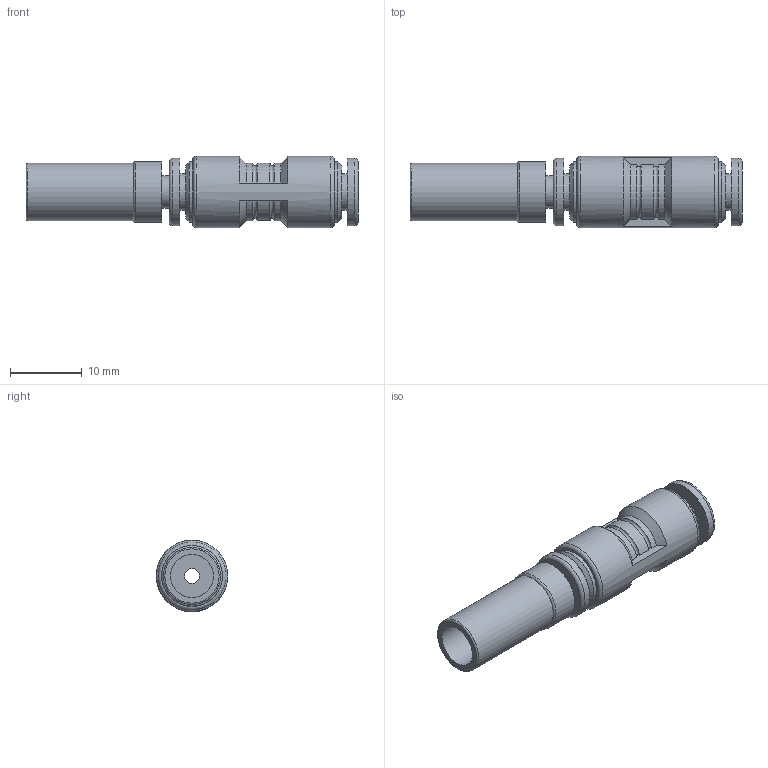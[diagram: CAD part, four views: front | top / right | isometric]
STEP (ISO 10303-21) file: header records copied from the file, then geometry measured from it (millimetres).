
FILE_DESCRIPTION((''),'2;1');
FILE_NAME('E:\2012年度板ﾃﾞｰﾀ\CHIYODA 3D-CAD DATA (Inventor 11)\TOUCH CONNECTOR FIVE (Inventor 11)\[21] REDUCER\[02] FR4-8RC FR4-8RCW.stp','2012-03-21T16:31:29',('kazuhiro.t'),(''),'Autodesk Inventor 11','Autodesk Inventor 11','');
FILE_SCHEMA(('AUTOMOTIVE_DESIGN { 1 0 10303 214 1 1 1 1 }'));
Length unit declared in the file: millimetre
Products named in the file (1): [02] FR4-8RC FR4-8RCW
Bounding box: 46.4 x 10 x 10 mm (x, y, z)
Volume: 2040.8 mm3; surface area: 2291.4 mm2
Topology: 1 solids, 1 shells, 53 faces, 110 edges, 71 vertices
Faces by surface type: bspline 22, cylinder 12, plane 11, torus 5, cone 3
Full cylindrical faces by diameter (mm): 2.1 x1, 4.5 x1, 5.1 x1, 8 x1, 8.4 x1, 8.5 x1, 9.5 x1, 10 x1
Entity records: 1812 total; most frequent: CARTESIAN_POINT 843, DIRECTION 182, ORIENTED_EDGE 166, EDGE_LOOP 90, AXIS2_PLACEMENT_3D 83, EDGE_CURVE 83, VERTEX_POINT 67, FACE_OUTER_BOUND 53
